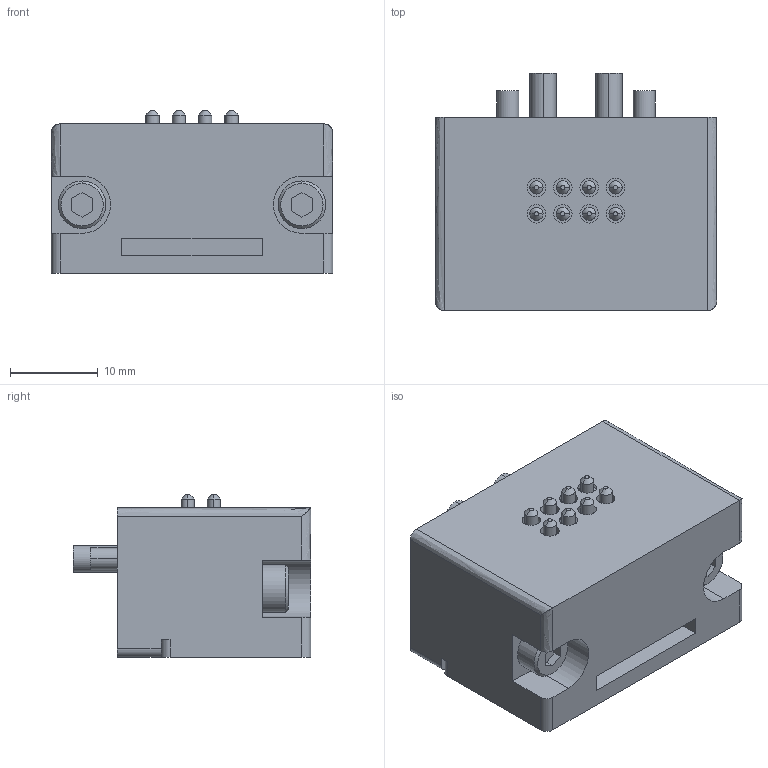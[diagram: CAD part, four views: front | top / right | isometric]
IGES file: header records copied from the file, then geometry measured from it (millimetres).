
Start section: 3D InterOp IGES (v. 2022 1.0.0), Spatial Corp. Copyright (c) 1999-2020.
Global section: file name: KHB-3HS-D38_ver1.igs; native system: Spatial Corp.; preprocessor: 3D InterOp GENERIC/IGES 3.0; author: Noname; organization: Noname; date: 20260424.102206; units: millimetre
Bounding box: 32 x 27 x 18.5 mm (x, y, z)
Surface area: 5205.6 mm2 (no closed solid volume)
Topology: 0 solids, 0 shells, 336 faces, 1570 edges, 1570 vertices
Faces by surface type: extrusion 191, revolution 145
